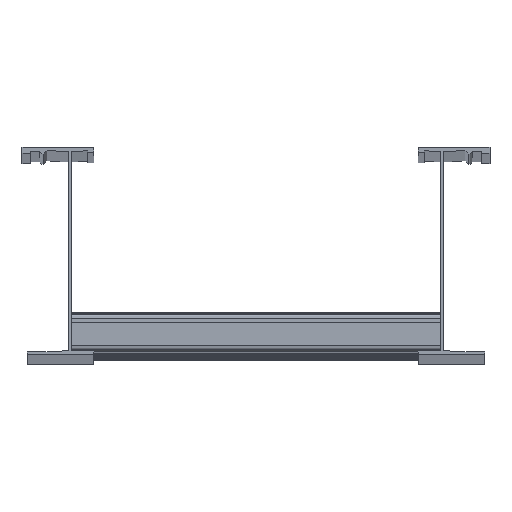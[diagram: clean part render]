
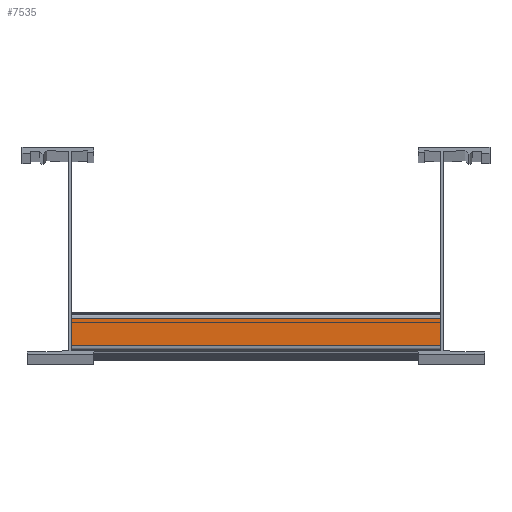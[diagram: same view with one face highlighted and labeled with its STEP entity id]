
A CAD part, top view. The second image highlights one B-rep face of the part: STEP entity #7535.
In plain terms, the highlighted planar face has unit normal (0, 0, 1).
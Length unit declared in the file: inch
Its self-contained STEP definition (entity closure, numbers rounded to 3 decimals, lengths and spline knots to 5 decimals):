
#5682=DIRECTION('',(0.,-1.,0.));
#5683=VECTOR('',#5682,0.668);
#5684=CARTESIAN_POINT('',(4.5,0.809,0.9));
#5685=LINE('',#5684,#5683);
#5835=DIRECTION('',(0.,-1.,0.));
#5836=VECTOR('',#5835,0.668);
#5837=CARTESIAN_POINT('',(-4.5,0.809,0.9));
#5838=LINE('',#5837,#5836);
#6191=DIRECTION('',(-1.,0.,0.));
#6192=VECTOR('',#6191,9.);
#6193=CARTESIAN_POINT('',(4.5,0.809,0.9));
#6194=LINE('',#6193,#6192);
#6195=DIRECTION('',(-1.,0.,0.));
#6196=VECTOR('',#6195,9.);
#6197=CARTESIAN_POINT('',(4.5,0.141,0.9));
#6198=LINE('',#6197,#6196);
#6719=CARTESIAN_POINT('',(4.5,0.809,0.9));
#6720=VERTEX_POINT('',#6719);
#6721=CARTESIAN_POINT('',(4.5,0.141,0.9));
#6722=VERTEX_POINT('',#6721);
#6771=CARTESIAN_POINT('',(-4.5,0.809,0.9));
#6772=VERTEX_POINT('',#6771);
#6773=CARTESIAN_POINT('',(-4.5,0.141,0.9));
#6774=VERTEX_POINT('',#6773);
#7523=CARTESIAN_POINT('',(4.5,0.809,0.9));
#7524=DIRECTION('',(0.,0.,1.));
#7525=DIRECTION('',(0.,-1.,0.));
#7526=AXIS2_PLACEMENT_3D('',#7523,#7524,#7525);
#7527=PLANE('',#7526);
#7528=ORIENTED_EDGE('',*,*,#7078,.T.);
#7530=ORIENTED_EDGE('',*,*,#7529,.T.);
#7531=ORIENTED_EDGE('',*,*,#7190,.F.);
#7532=ORIENTED_EDGE('',*,*,#7516,.F.);
#7533=EDGE_LOOP('',(#7528,#7530,#7531,#7532));
#7534=FACE_OUTER_BOUND('',#7533,.F.);
#7535=ADVANCED_FACE('',(#7534),#7527,.T.);
#7078=EDGE_CURVE('',#6720,#6722,#5685,.T.);
#7190=EDGE_CURVE('',#6772,#6774,#5838,.T.);
#7516=EDGE_CURVE('',#6720,#6772,#6194,.T.);
#7529=EDGE_CURVE('',#6722,#6774,#6198,.T.);
